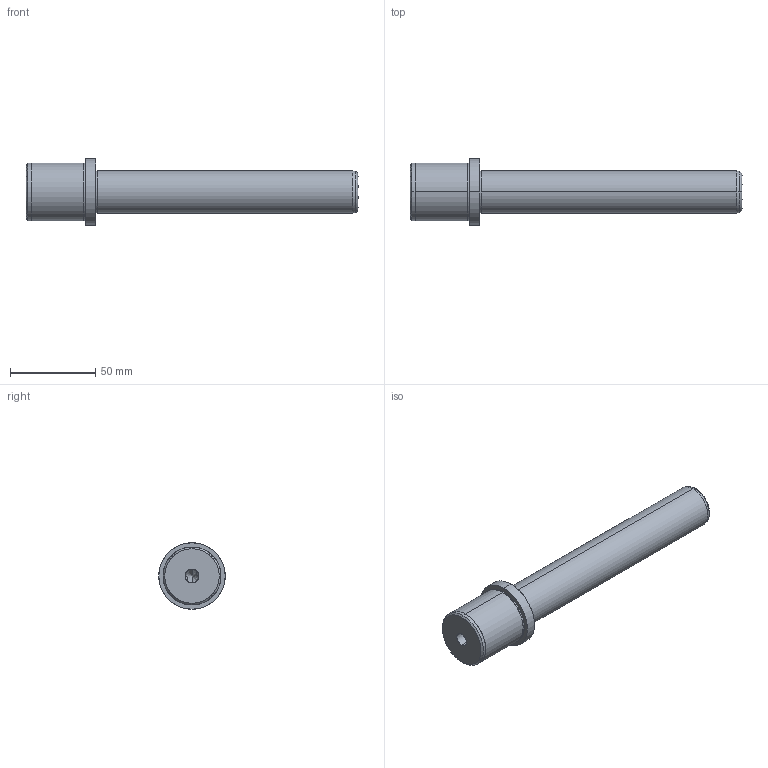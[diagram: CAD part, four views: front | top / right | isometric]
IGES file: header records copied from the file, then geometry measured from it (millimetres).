
Start section: SolidWorks IGES file using analytic representation for surfaces
Global section: file name: C:\Documents and Settings\kalite-mail\Desktop\IGS\D05\D05 - 25x160x35.IGS; native system: SolidWorks 2008; preprocessor: SolidWorks 2008; author: kalite-mail; date: 080617.104330; units: millimetre
Bounding box: 195 x 39 x 39 mm (x, y, z)
Surface area: 19082.3 mm2 (no closed solid volume)
Topology: 0 solids, 0 shells, 29 faces, 760 edges, 758 vertices
Faces by surface type: revolution 20, bspline 9
